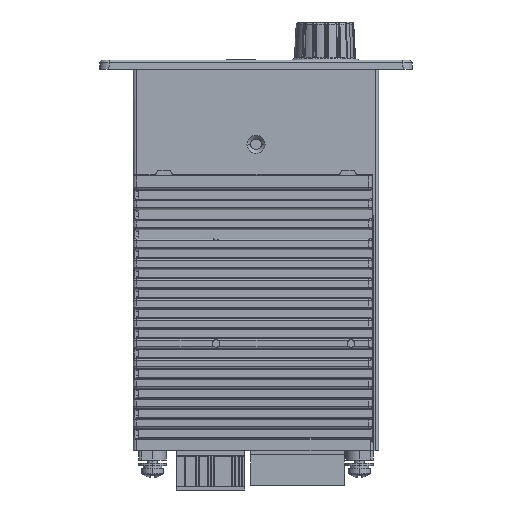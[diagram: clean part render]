
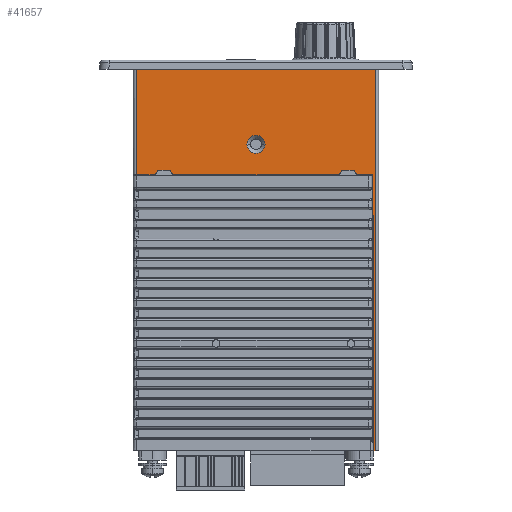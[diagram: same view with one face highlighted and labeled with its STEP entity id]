
A CAD part, left-side view. The second image highlights one B-rep face of the part: STEP entity #41657.
In plain terms, the highlighted planar face has unit normal (-1, 0, 0).
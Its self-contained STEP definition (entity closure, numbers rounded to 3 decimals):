
#100 = ORIENTED_EDGE ( 'NONE', *, *, #131622, .F. ) ;
#241 = LINE ( 'NONE', #10782, #86396 ) ;
#617 = LINE ( 'NONE', #88640, #2067 ) ;
#2067 = VECTOR ( 'NONE', #137933, 1000. ) ;
#2174 = ORIENTED_EDGE ( 'NONE', *, *, #153056, .T. ) ;
#2357 = LINE ( 'NONE', #51634, #96203 ) ;
#4554 = ORIENTED_EDGE ( 'NONE', *, *, #114117, .T. ) ;
#6211 = DIRECTION ( 'NONE',  ( 0., -1., 0. ) ) ;
#6479 = CARTESIAN_POINT ( 'NONE',  ( -25.5, 40., 37.5 ) ) ;
#8874 = LINE ( 'NONE', #6479, #112460 ) ;
#9785 = CARTESIAN_POINT ( 'NONE',  ( -25.5, -27.134, 37.5 ) ) ;
#10782 = CARTESIAN_POINT ( 'NONE',  ( -25.5, 32., 39. ) ) ;
#13475 = VERTEX_POINT ( 'NONE', #107352 ) ;
#13881 = LINE ( 'NONE', #47266, #101550 ) ;
#18008 = CARTESIAN_POINT ( 'NONE',  ( -25.5, 40., 37.5 ) ) ;
#18479 = AXIS2_PLACEMENT_3D ( 'NONE', #38935, #88253, #125426 ) ;
#18528 = ORIENTED_EDGE ( 'NONE', *, *, #124674, .T. ) ;
#19878 = VERTEX_POINT ( 'NONE', #34597 ) ;
#20235 = ORIENTED_EDGE ( 'NONE', *, *, #81382, .T. ) ;
#20823 = VERTEX_POINT ( 'NONE', #63191 ) ;
#22192 = PLANE ( 'NONE',  #82965 ) ;
#22271 = CARTESIAN_POINT ( 'NONE',  ( -25.5, -27.134, 37.5 ) ) ;
#22541 = ORIENTED_EDGE ( 'NONE', *, *, #41888, .T. ) ;
#25465 = VECTOR ( 'NONE', #104633, 1000. ) ;
#25601 = CARTESIAN_POINT ( 'NONE',  ( -25.5, 32.866, 37.5 ) ) ;
#26241 = CARTESIAN_POINT ( 'NONE',  ( -25.5, 39., 37.5 ) ) ;
#28766 = CARTESIAN_POINT ( 'NONE',  ( -25.5, 28., 39. ) ) ;
#34097 = CARTESIAN_POINT ( 'NONE',  ( -25.5, 32.866, 37.5 ) ) ;
#34193 = EDGE_CURVE ( 'NONE', #155780, #133663, #41444, .T. ) ;
#34597 = CARTESIAN_POINT ( 'NONE',  ( -25.5, 39., 72. ) ) ;
#38081 = ORIENTED_EDGE ( 'NONE', *, *, #134842, .T. ) ;
#38197 = VERTEX_POINT ( 'NONE', #107973 ) ;
#38935 = CARTESIAN_POINT ( 'NONE',  ( -25.5, 0., 47.5 ) ) ;
#40346 = LINE ( 'NONE', #154320, #75123 ) ;
#41444 = LINE ( 'NONE', #18008, #57533 ) ;
#41657 = ADVANCED_FACE ( 'NONE', ( #119243, #46446 ), #22192, .T. ) ;
#41888 = EDGE_CURVE ( 'NONE', #101350, #123613, #52013, .T. ) ;
#42662 = EDGE_CURVE ( 'NONE', #123613, #101350, #155314, .T. ) ;
#46373 = EDGE_CURVE ( 'NONE', #97857, #121200, #2357, .T. ) ;
#46446 = FACE_BOUND ( 'NONE', #57737, .T. ) ;
#47266 = CARTESIAN_POINT ( 'NONE',  ( -25.5, 39., -52.5 ) ) ;
#50266 = DIRECTION ( 'NONE',  ( 0., -1., 0. ) ) ;
#51634 = CARTESIAN_POINT ( 'NONE',  ( -25.5, 40., 37.5 ) ) ;
#52013 = CIRCLE ( 'NONE', #18479, 2.95 ) ;
#56452 = VECTOR ( 'NONE', #59064, 1000. ) ;
#56703 = DIRECTION ( 'NONE',  ( -1., 0., 0. ) ) ;
#57533 = VECTOR ( 'NONE', #114224, 1000. ) ;
#57605 = VECTOR ( 'NONE', #73610, 1000. ) ;
#57727 = CARTESIAN_POINT ( 'NONE',  ( -25.5, 40., 72. ) ) ;
#57737 = EDGE_LOOP ( 'NONE', ( #116432, #22541 ) ) ;
#58636 = VECTOR ( 'NONE', #131925, 1000. ) ;
#59064 = DIRECTION ( 'NONE',  ( 0., -0.5, 0.866 ) ) ;
#59517 = VERTEX_POINT ( 'NONE', #59701 ) ;
#59701 = CARTESIAN_POINT ( 'NONE',  ( -25.5, -28., 39. ) ) ;
#60712 = LINE ( 'NONE', #34097, #57605 ) ;
#61146 = ORIENTED_EDGE ( 'NONE', *, *, #46373, .T. ) ;
#61340 = CARTESIAN_POINT ( 'NONE',  ( -25.5, 2.95, 47.5 ) ) ;
#63135 = DIRECTION ( 'NONE',  ( 0., 0., -1. ) ) ;
#63191 = CARTESIAN_POINT ( 'NONE',  ( -25.5, -39., 72. ) ) ;
#63300 = ORIENTED_EDGE ( 'NONE', *, *, #108477, .T. ) ;
#63766 = VERTEX_POINT ( 'NONE', #22271 ) ;
#65033 = ORIENTED_EDGE ( 'NONE', *, *, #34193, .T. ) ;
#67237 = CARTESIAN_POINT ( 'NONE',  ( -25.5, -32.866, 37.5 ) ) ;
#67590 = LINE ( 'NONE', #116946, #123854 ) ;
#67799 = DIRECTION ( 'NONE',  ( 0., -0.5, -0.866 ) ) ;
#71482 = CARTESIAN_POINT ( 'NONE',  ( -25.5, 40., -52.5 ) ) ;
#73610 = DIRECTION ( 'NONE',  ( 0., -0.5, 0.866 ) ) ;
#74915 = EDGE_CURVE ( 'NONE', #89841, #63766, #8874, .T. ) ;
#75123 = VECTOR ( 'NONE', #67799, 1000. ) ;
#81382 = EDGE_CURVE ( 'NONE', #121200, #90127, #60712, .T. ) ;
#82400 = DIRECTION ( 'NONE',  ( 0., -1., 0. ) ) ;
#82965 = AXIS2_PLACEMENT_3D ( 'NONE', #71482, #56703, #140005 ) ;
#83330 = CARTESIAN_POINT ( 'NONE',  ( -25.5, 27.134, 37.5 ) ) ;
#86396 = VECTOR ( 'NONE', #50266, 1000. ) ;
#87991 = VECTOR ( 'NONE', #143194, 1000. ) ;
#88253 = DIRECTION ( 'NONE',  ( 1., 0., 0. ) ) ;
#88640 = CARTESIAN_POINT ( 'NONE',  ( -25.5, -28., 39. ) ) ;
#89841 = VERTEX_POINT ( 'NONE', #83330 ) ;
#89865 = EDGE_CURVE ( 'NONE', #63766, #59517, #120505, .T. ) ;
#90127 = VERTEX_POINT ( 'NONE', #138946 ) ;
#93045 = EDGE_LOOP ( 'NONE', ( #2174, #4554, #100, #127782, #61146, #20235, #18528, #63300, #109296, #156257, #95930, #38081, #65033, #157698 ) ) ;
#93233 = CARTESIAN_POINT ( 'NONE',  ( -25.5, -2.95, 47.5 ) ) ;
#95340 = VERTEX_POINT ( 'NONE', #130155 ) ;
#95930 = ORIENTED_EDGE ( 'NONE', *, *, #131248, .T. ) ;
#96203 = VECTOR ( 'NONE', #100963, 1000. ) ;
#96638 = DIRECTION ( 'NONE',  ( 1., 0., 0. ) ) ;
#97706 = CARTESIAN_POINT ( 'NONE',  ( -25.5, -38.122, 37.5 ) ) ;
#97857 = VERTEX_POINT ( 'NONE', #26241 ) ;
#100963 = DIRECTION ( 'NONE',  ( 0., -1., 0. ) ) ;
#101350 = VERTEX_POINT ( 'NONE', #61340 ) ;
#101550 = VECTOR ( 'NONE', #63135, 1000. ) ;
#102517 = DIRECTION ( 'NONE',  ( 0., -0.003, -1. ) ) ;
#103372 = AXIS2_PLACEMENT_3D ( 'NONE', #107168, #96638, #159633 ) ;
#104633 = DIRECTION ( 'NONE',  ( 0., -1., 0. ) ) ;
#107025 = LINE ( 'NONE', #57727, #25465 ) ;
#107168 = CARTESIAN_POINT ( 'NONE',  ( -25.5, 0., 47.5 ) ) ;
#107352 = CARTESIAN_POINT ( 'NONE',  ( -25.5, -39., -52.5 ) ) ;
#107973 = CARTESIAN_POINT ( 'NONE',  ( -25.5, -32., 39. ) ) ;
#108477 = EDGE_CURVE ( 'NONE', #115094, #89841, #40346, .T. ) ;
#109296 = ORIENTED_EDGE ( 'NONE', *, *, #74915, .T. ) ;
#112460 = VECTOR ( 'NONE', #82400, 1000. ) ;
#114117 = EDGE_CURVE ( 'NONE', #13475, #20823, #134300, .T. ) ;
#114224 = DIRECTION ( 'NONE',  ( 0., -1., 0. ) ) ;
#115094 = VERTEX_POINT ( 'NONE', #28766 ) ;
#116432 = ORIENTED_EDGE ( 'NONE', *, *, #42662, .T. ) ;
#116946 = CARTESIAN_POINT ( 'NONE',  ( -25.5, 40., -52.5 ) ) ;
#119243 = FACE_OUTER_BOUND ( 'NONE', #93045, .T. ) ;
#119955 = EDGE_CURVE ( 'NONE', #133663, #95340, #151016, .T. ) ;
#120505 = LINE ( 'NONE', #9785, #56452 ) ;
#121200 = VERTEX_POINT ( 'NONE', #25601 ) ;
#121396 = CARTESIAN_POINT ( 'NONE',  ( -25.5, -39., -52.5 ) ) ;
#122526 = EDGE_CURVE ( 'NONE', #19878, #97857, #13881, .T. ) ;
#123613 = VERTEX_POINT ( 'NONE', #93233 ) ;
#123854 = VECTOR ( 'NONE', #6211, 1000. ) ;
#124674 = EDGE_CURVE ( 'NONE', #90127, #115094, #241, .T. ) ;
#125426 = DIRECTION ( 'NONE',  ( 0., -1., 0. ) ) ;
#127782 = ORIENTED_EDGE ( 'NONE', *, *, #122526, .T. ) ;
#130155 = CARTESIAN_POINT ( 'NONE',  ( -25.5, -38.436, -52.5 ) ) ;
#131248 = EDGE_CURVE ( 'NONE', #59517, #38197, #617, .T. ) ;
#131622 = EDGE_CURVE ( 'NONE', #19878, #20823, #107025, .T. ) ;
#131925 = DIRECTION ( 'NONE',  ( 0., 0., 1. ) ) ;
#133532 = VECTOR ( 'NONE', #102517, 1000. ) ;
#133663 = VERTEX_POINT ( 'NONE', #97706 ) ;
#134300 = LINE ( 'NONE', #121396, #58636 ) ;
#134842 = EDGE_CURVE ( 'NONE', #38197, #155780, #152972, .T. ) ;
#136048 = CARTESIAN_POINT ( 'NONE',  ( -25.5, -32.866, 37.5 ) ) ;
#137933 = DIRECTION ( 'NONE',  ( 0., -1., 0. ) ) ;
#138946 = CARTESIAN_POINT ( 'NONE',  ( -25.5, 32., 39. ) ) ;
#140005 = DIRECTION ( 'NONE',  ( 0., 1., 0. ) ) ;
#143194 = DIRECTION ( 'NONE',  ( 0., -0.5, -0.866 ) ) ;
#150232 = CARTESIAN_POINT ( 'NONE',  ( -25.5, -38., 72.5 ) ) ;
#151016 = LINE ( 'NONE', #150232, #133532 ) ;
#152972 = LINE ( 'NONE', #67237, #87991 ) ;
#153056 = EDGE_CURVE ( 'NONE', #95340, #13475, #67590, .T. ) ;
#154320 = CARTESIAN_POINT ( 'NONE',  ( -25.5, 27.134, 37.5 ) ) ;
#155314 = CIRCLE ( 'NONE', #103372, 2.95 ) ;
#155780 = VERTEX_POINT ( 'NONE', #136048 ) ;
#156257 = ORIENTED_EDGE ( 'NONE', *, *, #89865, .T. ) ;
#157698 = ORIENTED_EDGE ( 'NONE', *, *, #119955, .T. ) ;
#159633 = DIRECTION ( 'NONE',  ( 0., -1., 0. ) ) ;
